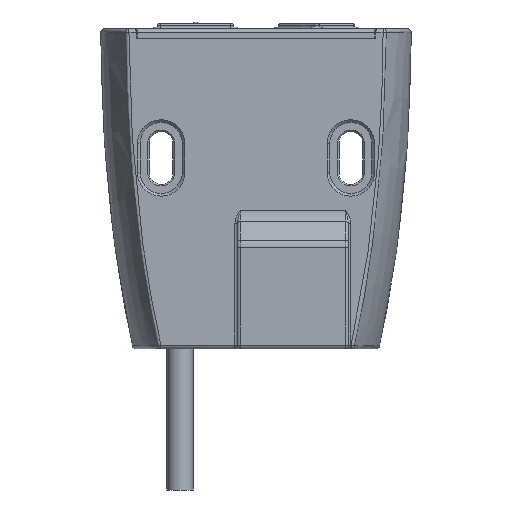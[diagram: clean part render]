
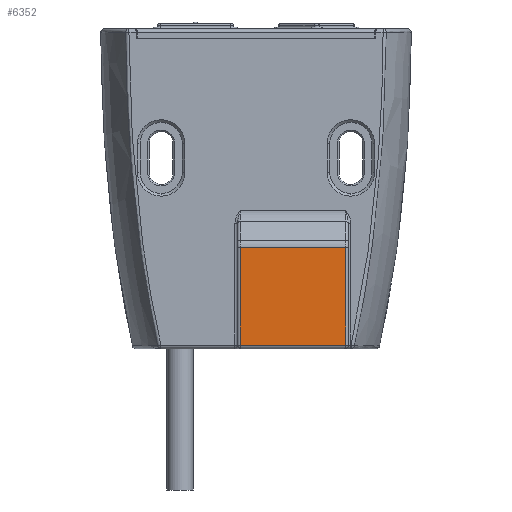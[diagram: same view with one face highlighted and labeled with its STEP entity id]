
A CAD part, front view. The second image highlights one B-rep face of the part: STEP entity #6352.
In plain terms, the highlighted planar face has unit normal (0, -1, 0).
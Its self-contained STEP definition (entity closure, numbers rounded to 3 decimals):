
#967 = VERTEX_POINT ( 'NONE', #5789 ) ;
#1484 = VECTOR ( 'NONE', #12840, 1000. ) ;
#1522 = EDGE_LOOP ( 'NONE', ( #10282, #2009, #9532, #11314 ) ) ;
#1650 = LINE ( 'NONE', #3588, #1484 ) ;
#2009 = ORIENTED_EDGE ( 'NONE', *, *, #10451, .T. ) ;
#2652 = CARTESIAN_POINT ( 'NONE',  ( -3., 10., -14.528 ) ) ;
#3125 = AXIS2_PLACEMENT_3D ( 'NONE', #9503, #3340, #10484 ) ;
#3340 = DIRECTION ( 'NONE',  ( 0., -1., 0. ) ) ;
#3352 = LINE ( 'NONE', #13149, #8786 ) ;
#3416 = EDGE_CURVE ( 'NONE', #3480, #967, #6959, .T. ) ;
#3480 = VERTEX_POINT ( 'NONE', #9798 ) ;
#3588 = CARTESIAN_POINT ( 'NONE',  ( -3., 10., -13.7 ) ) ;
#4730 = DIRECTION ( 'NONE',  ( 0., 0., 1. ) ) ;
#5362 = FACE_OUTER_BOUND ( 'NONE', #1522, .T. ) ;
#5436 = CARTESIAN_POINT ( 'NONE',  ( 17., 10., -13.7 ) ) ;
#5505 = PLANE ( 'NONE',  #3125 ) ;
#5789 = CARTESIAN_POINT ( 'NONE',  ( 17., 10., -14.528 ) ) ;
#6352 = ADVANCED_FACE ( 'NONE', ( #5362 ), #5505, .T. ) ;
#6515 = DIRECTION ( 'NONE',  ( -1., 0., 0. ) ) ;
#6959 = LINE ( 'NONE', #5436, #7426 ) ;
#7192 = EDGE_CURVE ( 'NONE', #10983, #7395, #1650, .T. ) ;
#7395 = VERTEX_POINT ( 'NONE', #9923 ) ;
#7426 = VECTOR ( 'NONE', #4730, 1000. ) ;
#8385 = CARTESIAN_POINT ( 'NONE',  ( -3., 10., -14.528 ) ) ;
#8786 = VECTOR ( 'NONE', #13111, 1000. ) ;
#9503 = CARTESIAN_POINT ( 'NONE',  ( 17., 10., -13.7 ) ) ;
#9532 = ORIENTED_EDGE ( 'NONE', *, *, #3416, .T. ) ;
#9798 = CARTESIAN_POINT ( 'NONE',  ( 17., 10., -33. ) ) ;
#9923 = CARTESIAN_POINT ( 'NONE',  ( -3., 10., -33. ) ) ;
#10282 = ORIENTED_EDGE ( 'NONE', *, *, #7192, .T. ) ;
#10451 = EDGE_CURVE ( 'NONE', #7395, #3480, #3352, .T. ) ;
#10484 = DIRECTION ( 'NONE',  ( 0., 0., -1. ) ) ;
#10983 = VERTEX_POINT ( 'NONE', #2652 ) ;
#11174 = LINE ( 'NONE', #8385, #12129 ) ;
#11201 = EDGE_CURVE ( 'NONE', #967, #10983, #11174, .T. ) ;
#11314 = ORIENTED_EDGE ( 'NONE', *, *, #11201, .T. ) ;
#12129 = VECTOR ( 'NONE', #6515, 1000. ) ;
#12840 = DIRECTION ( 'NONE',  ( 0., 0., -1. ) ) ;
#13111 = DIRECTION ( 'NONE',  ( 1., 0., 0. ) ) ;
#13149 = CARTESIAN_POINT ( 'NONE',  ( 16.5, 10., -33. ) ) ;
